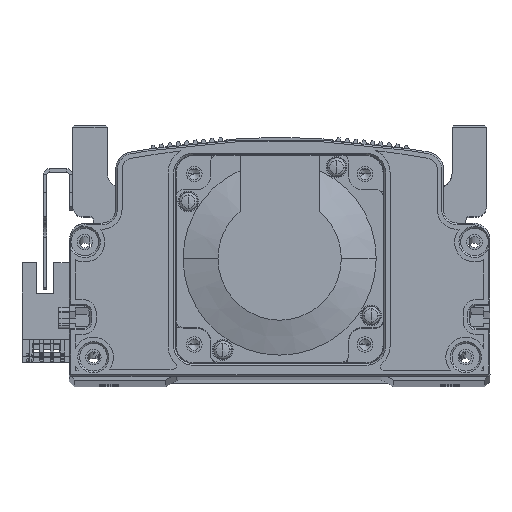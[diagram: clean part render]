
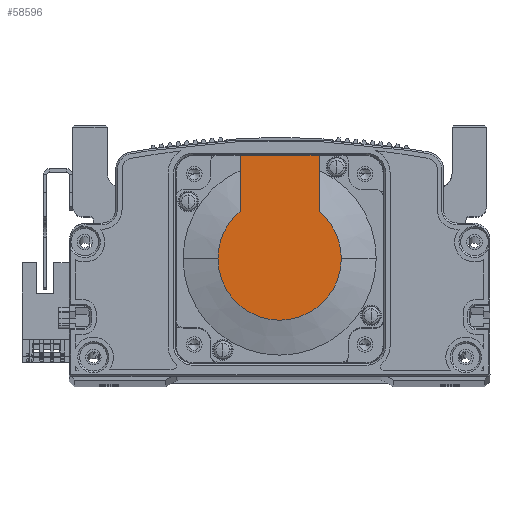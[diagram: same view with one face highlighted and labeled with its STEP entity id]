
A CAD part, top view. The second image highlights one B-rep face of the part: STEP entity #58596.
In plain terms, the highlighted planar face has unit normal (0, 0, 1) as drawn and (-1, 0, 0) by its records, which use the part's own axes.
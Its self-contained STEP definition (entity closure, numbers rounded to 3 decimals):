
#2052 = CARTESIAN_POINT ( 'NONE',  ( -118.5, 0., 17.881 ) ) ;
#3505 = VERTEX_POINT ( 'NONE', #47986 ) ;
#5025 = CIRCLE ( 'NONE', #40165, 17.881 ) ;
#10446 = ORIENTED_EDGE ( 'NONE', *, *, #19900, .T. ) ;
#12656 = ORIENTED_EDGE ( 'NONE', *, *, #39582, .F. ) ;
#13424 = ORIENTED_EDGE ( 'NONE', *, *, #57771, .T. ) ;
#14075 = DIRECTION ( 'NONE',  ( 0., 0., -1. ) ) ;
#15195 = ORIENTED_EDGE ( 'NONE', *, *, #32527, .F. ) ;
#15311 = CIRCLE ( 'NONE', #22232, 17.881 ) ;
#17366 = ORIENTED_EDGE ( 'NONE', *, *, #63820, .T. ) ;
#19900 = EDGE_CURVE ( 'NONE', #41751, #40934, #5025, .T. ) ;
#21214 = VECTOR ( 'NONE', #25885, 1000. ) ;
#22232 = AXIS2_PLACEMENT_3D ( 'NONE', #41692, #58704, #30656 ) ;
#22606 = CARTESIAN_POINT ( 'NONE',  ( -118.5, -8.941, -11.45 ) ) ;
#23027 = LINE ( 'NONE', #37883, #21214 ) ;
#25885 = DIRECTION ( 'NONE',  ( 0., 0., 1. ) ) ;
#27958 = VERTEX_POINT ( 'NONE', #72886 ) ;
#30656 = DIRECTION ( 'NONE',  ( 0., 0., -1. ) ) ;
#30704 = CARTESIAN_POINT ( 'NONE',  ( -118.5, 0., 11.45 ) ) ;
#32527 = EDGE_CURVE ( 'NONE', #66682, #27958, #23027, .T. ) ;
#34741 = AXIS2_PLACEMENT_3D ( 'NONE', #42180, #60127, #14075 ) ;
#37883 = CARTESIAN_POINT ( 'NONE',  ( -118.5, 30., 25. ) ) ;
#39582 = EDGE_CURVE ( 'NONE', #27958, #3505, #40152, .T. ) ;
#39781 = PLANE ( 'NONE',  #64972 ) ;
#40152 = LINE ( 'NONE', #30704, #66050 ) ;
#40165 = AXIS2_PLACEMENT_3D ( 'NONE', #55591, #67353, #55353 ) ;
#40311 = FACE_OUTER_BOUND ( 'NONE', #65850, .T. ) ;
#40934 = VERTEX_POINT ( 'NONE', #2052 ) ;
#41692 = CARTESIAN_POINT ( 'NONE',  ( -118.5, 0., 0. ) ) ;
#41751 = VERTEX_POINT ( 'NONE', #43057 ) ;
#42180 = CARTESIAN_POINT ( 'NONE',  ( -118.5, 0., 0. ) ) ;
#42480 = DIRECTION ( 'NONE',  ( 0., -1., 0. ) ) ;
#43057 = CARTESIAN_POINT ( 'NONE',  ( -118.5, 0., -17.881 ) ) ;
#45117 = VERTEX_POINT ( 'NONE', #50683 ) ;
#45427 = DIRECTION ( 'NONE',  ( 0., -1., 0. ) ) ;
#45582 = DIRECTION ( 'NONE',  ( -1., 0., 0. ) ) ;
#46120 = VECTOR ( 'NONE', #45427, 1000. ) ;
#47986 = CARTESIAN_POINT ( 'NONE',  ( -118.5, 13.735, 11.45 ) ) ;
#50683 = CARTESIAN_POINT ( 'NONE',  ( -118.5, 13.735, -11.45 ) ) ;
#50796 = DIRECTION ( 'NONE',  ( 0., 0., 1. ) ) ;
#52393 = ORIENTED_EDGE ( 'NONE', *, *, #56877, .T. ) ;
#55353 = DIRECTION ( 'NONE',  ( 0., 0., -1. ) ) ;
#55591 = CARTESIAN_POINT ( 'NONE',  ( -118.5, 0., 0. ) ) ;
#56877 = EDGE_CURVE ( 'NONE', #40934, #3505, #15311, .T. ) ;
#57771 = EDGE_CURVE ( 'NONE', #45117, #41751, #66258, .T. ) ;
#58125 = CARTESIAN_POINT ( 'NONE',  ( -118.5, 30., -11.45 ) ) ;
#58596 = ADVANCED_FACE ( 'NONE', ( #40311 ), #39781, .T. ) ;
#58704 = DIRECTION ( 'NONE',  ( -1., 0., 0. ) ) ;
#60127 = DIRECTION ( 'NONE',  ( -1., 0., 0. ) ) ;
#63065 = LINE ( 'NONE', #22606, #46120 ) ;
#63820 = EDGE_CURVE ( 'NONE', #66682, #45117, #63065, .T. ) ;
#64972 = AXIS2_PLACEMENT_3D ( 'NONE', #74280, #45582, #50796 ) ;
#65850 = EDGE_LOOP ( 'NONE', ( #17366, #13424, #10446, #52393, #12656, #15195 ) ) ;
#66050 = VECTOR ( 'NONE', #42480, 1000. ) ;
#66258 = CIRCLE ( 'NONE', #34741, 17.881 ) ;
#66682 = VERTEX_POINT ( 'NONE', #58125 ) ;
#67353 = DIRECTION ( 'NONE',  ( -1., 0., 0. ) ) ;
#72886 = CARTESIAN_POINT ( 'NONE',  ( -118.5, 30., 11.45 ) ) ;
#74280 = CARTESIAN_POINT ( 'NONE',  ( -118.5, -8.941, 0. ) ) ;
